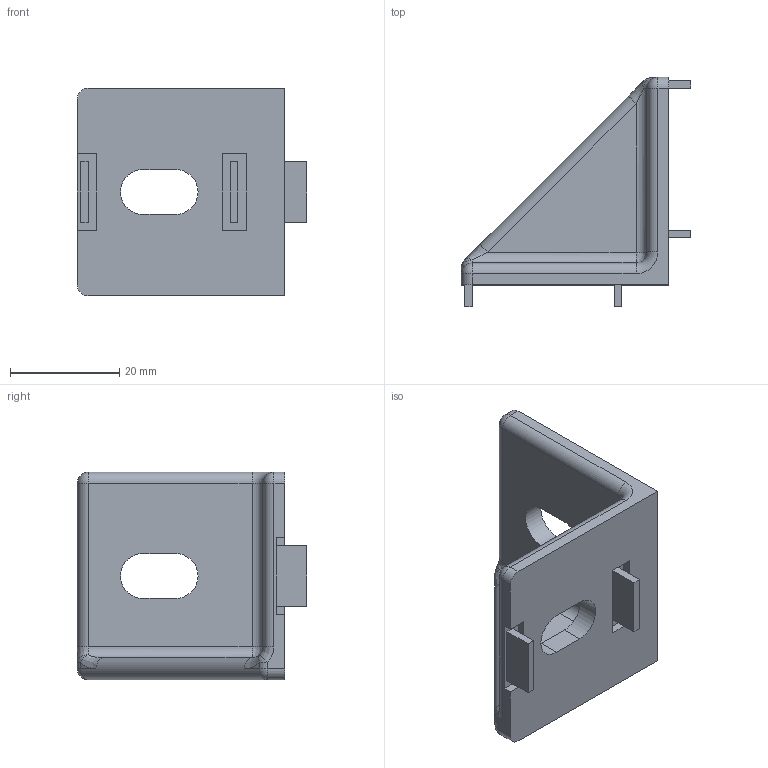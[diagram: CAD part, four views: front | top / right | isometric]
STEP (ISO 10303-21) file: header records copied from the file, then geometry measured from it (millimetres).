
FILE_DESCRIPTION((''),'2;1');
FILE_NAME('X:\Ritarkiv\STEP-Carryline Standarddelar\100-4020.stp','2009-11-09T07:55:25',('marcus'),(''),'Autodesk Inventor 2010','Autodesk Inventor 2010','');
FILE_SCHEMA(('AUTOMOTIVE_DESIGN { 1 0 10303 214 1 1 1 1 }'));
Length unit declared in the file: millimetre
Products named in the file (1): 100-4020
Bounding box: 42 x 42 x 38 mm (x, y, z)
Volume: 12326.3 mm3; surface area: 7701.5 mm2
Topology: 1 solids, 1 shells, 83 faces, 203 edges, 123 vertices
Faces by surface type: plane 53, cylinder 18, sphere 6, bspline 5, torus 1
Entity records: 2461 total; most frequent: CARTESIAN_POINT 485, DIRECTION 405, ORIENTED_EDGE 396, EDGE_CURVE 198, VECTOR 149, LINE 149, AXIS2_PLACEMENT_3D 128, VERTEX_POINT 123
